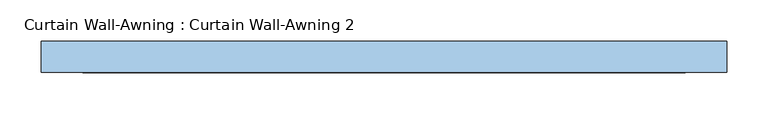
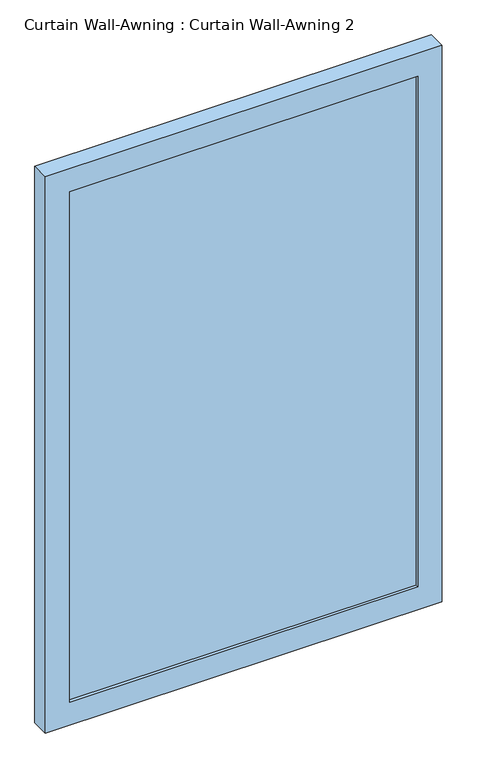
"""IFC4 building model written with IfcOpenShell, lengths in millimetres: window geometry, Curtain Wall-Awning : Curtain Wall-Awning 2."""

from ifc_helpers import new_model, si_unit, frame, origin, place, context, project, spatial, polyline, outline, extrude, source, transform, mapped, element, save


def curtain_wall_awning_curtain_wall_awning_2_1929c9be(model_context):
    return source(origin(), model_context, "Body", "SweptSolid", [
        extrude(outline(polyline([(366.1833333, 19.05), (366.1833333, 6.35), (-366.1833333, 6.35), (-366.1833333, 19.05), (366.1833333, 19.05)])), frame((0.0, 0.0, 50.8), z_axis=(0.0, 0.0, 1.0), x_axis=(1.0, 0.0, 0.0)), (0.0, 0.0, 1.0), 1134.635445),
        extrude(outline(polyline([(1236.235445, -416.9833333), (0.0, -416.9833333), (0.0, 416.9833333), (1236.235445, 416.9833333), (1236.235445, -416.9833333)]), holes=[polyline([(1185.435445, -366.1833333), (1185.435445, 366.1833333), (50.8, 366.1833333), (50.8, -366.1833333), (1185.435445, -366.1833333)])]), frame((0.0, 0.0, 0.0), z_axis=(0.0, 1.0, 0.0), x_axis=(0.0, 0.0, 1.0)), (0.0, 0.0, 1.0), 38.1),
    ])


if __name__ == "__main__":
    model = new_model("IFC4")
    model_context = context("Model", 3, world=origin())
    ifc_project = project(units=[si_unit("LENGTHUNIT", "METRE", prefix="MILLI")], contexts=[model_context])
    site = spatial("IfcSite", under=ifc_project)
    building = spatial("IfcBuilding", under=site)
    placement = place(None, origin())
    curtain_wall_awning_curtain_wall_awning_2_shape = curtain_wall_awning_curtain_wall_awning_2_1929c9be(model_context)
    element("IfcWindow", 1, ObjectType="Curtain Wall-Awning : Curtain Wall-Awning 2", at=placement, inside=building, context=model_context, shape_type="MappedRepresentation", body=[
        mapped(curtain_wall_awning_curtain_wall_awning_2_shape, transform((0.0, 0.0, 0.0), x_axis=(1.0, 0.0, 0.0), y_axis=(0.0, 1.0, 0.0), z_axis=(0.0, 0.0, 1.0))),
    ])
    save(model, "model.ifc")
